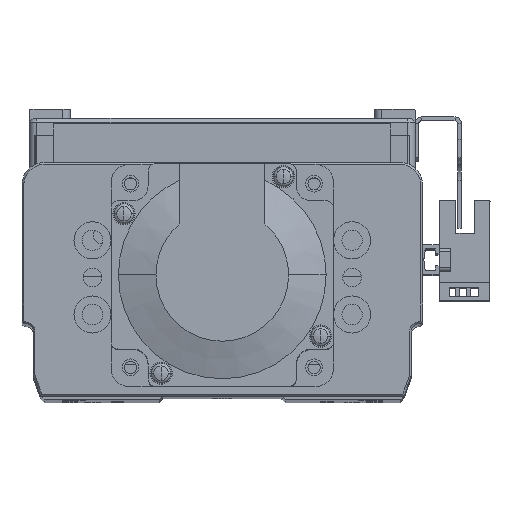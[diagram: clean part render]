
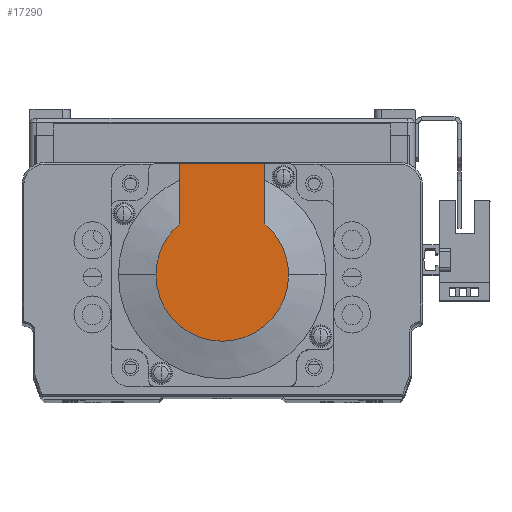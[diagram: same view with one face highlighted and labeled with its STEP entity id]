
A CAD part, top view. The second image highlights one B-rep face of the part: STEP entity #17290.
In plain terms, the highlighted planar face has unit normal (0, 0, 1) as drawn and (-1, 0, 0) by its records, which use the part's own axes.
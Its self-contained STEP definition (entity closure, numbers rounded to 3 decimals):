
#6930 = CARTESIAN_POINT ( 'NONE',  ( -99., 13.735, 11.45 ) ) ;
#6944 = CARTESIAN_POINT ( 'NONE',  ( -99., 0., 17.881 ) ) ;
#6952 = CARTESIAN_POINT ( 'NONE',  ( -99., 0., -17.881 ) ) ;
#7103 = CARTESIAN_POINT ( 'NONE',  ( -99., 13.735, -11.45 ) ) ;
#7141 = CARTESIAN_POINT ( 'NONE',  ( -99., 30., -11.45 ) ) ;
#7151 = CARTESIAN_POINT ( 'NONE',  ( -99., 30., 11.45 ) ) ;
#8076 = ORIENTED_EDGE ( 'NONE', *, *, #38153, .F. ) ;
#8084 = ORIENTED_EDGE ( 'NONE', *, *, #38079, .T. ) ;
#8089 = ORIENTED_EDGE ( 'NONE', *, *, #38134, .F. ) ;
#8117 = ORIENTED_EDGE ( 'NONE', *, *, #38121, .T. ) ;
#8119 = ORIENTED_EDGE ( 'NONE', *, *, #19098, .T. ) ;
#8134 = ORIENTED_EDGE ( 'NONE', *, *, #19062, .T. ) ;
#16986 = FACE_OUTER_BOUND ( 'NONE', #21888, .T. ) ;
#17290 = ADVANCED_FACE ( 'NONE', ( #16986 ), #29599, .T. ) ;
#19062 = EDGE_CURVE ( 'NONE', #40973, #40935, #45445, .T. ) ;
#19098 = EDGE_CURVE ( 'NONE', #40965, #40973, #45501, .T. ) ;
#21888 = EDGE_LOOP ( 'NONE', ( #8117, #8084, #8119, #8134, #8089, #8076 ) ) ;
#22935 = CIRCLE ( 'NONE', #43164, 17.881 ) ;
#23013 = LINE ( 'NONE', #27731, #23106 ) ;
#23032 = LINE ( 'NONE', #27778, #23075 ) ;
#23075 = VECTOR ( 'NONE', #27785, 1000. ) ;
#23106 = VECTOR ( 'NONE', #27741, 1000. ) ;
#23276 = LINE ( 'NONE', #27765, #23351 ) ;
#23351 = VECTOR ( 'NONE', #27796, 1000. ) ;
#27593 = CARTESIAN_POINT ( 'NONE',  ( -99., 0., 0. ) ) ;
#27607 = DIRECTION ( 'NONE',  ( 0., 0., -1. ) ) ;
#27610 = DIRECTION ( 'NONE',  ( -1., 0., 0. ) ) ;
#27731 = CARTESIAN_POINT ( 'NONE',  ( -99., -8.941, -11.45 ) ) ;
#27741 = DIRECTION ( 'NONE',  ( 0., -1., 0. ) ) ;
#27765 = CARTESIAN_POINT ( 'NONE',  ( -99., 30., 25. ) ) ;
#27778 = CARTESIAN_POINT ( 'NONE',  ( -99., 0., 11.45 ) ) ;
#27785 = DIRECTION ( 'NONE',  ( 0., -1., 0. ) ) ;
#27796 = DIRECTION ( 'NONE',  ( 0., 0., 1. ) ) ;
#29564 = DIRECTION ( 'NONE',  ( 0., 0., 1. ) ) ;
#29569 = DIRECTION ( 'NONE',  ( -1., 0., 0. ) ) ;
#29579 = CARTESIAN_POINT ( 'NONE',  ( -99., -8.941, 0. ) ) ;
#29599 = PLANE ( 'NONE',  #34911 ) ;
#34911 = AXIS2_PLACEMENT_3D ( 'NONE', #29579, #29569, #29564 ) ;
#38079 = EDGE_CURVE ( 'NONE', #41113, #40965, #22935, .T. ) ;
#38121 = EDGE_CURVE ( 'NONE', #41180, #41113, #23013, .T. ) ;
#38134 = EDGE_CURVE ( 'NONE', #41170, #40935, #23032, .T. ) ;
#38153 = EDGE_CURVE ( 'NONE', #41180, #41170, #23276, .T. ) ;
#40935 = VERTEX_POINT ( 'NONE', #6930 ) ;
#40965 = VERTEX_POINT ( 'NONE', #6952 ) ;
#40973 = VERTEX_POINT ( 'NONE', #6944 ) ;
#41113 = VERTEX_POINT ( 'NONE', #7103 ) ;
#41170 = VERTEX_POINT ( 'NONE', #7151 ) ;
#41180 = VERTEX_POINT ( 'NONE', #7141 ) ;
#42379 = AXIS2_PLACEMENT_3D ( 'NONE', #45069, #45057, #45070 ) ;
#42561 = AXIS2_PLACEMENT_3D ( 'NONE', #45159, #45129, #45160 ) ;
#43164 = AXIS2_PLACEMENT_3D ( 'NONE', #27593, #27610, #27607 ) ;
#45057 = DIRECTION ( 'NONE',  ( -1., 0., 0. ) ) ;
#45069 = CARTESIAN_POINT ( 'NONE',  ( -99., 0., 0. ) ) ;
#45070 = DIRECTION ( 'NONE',  ( 0., 0., -1. ) ) ;
#45129 = DIRECTION ( 'NONE',  ( -1., 0., 0. ) ) ;
#45159 = CARTESIAN_POINT ( 'NONE',  ( -99., 0., 0. ) ) ;
#45160 = DIRECTION ( 'NONE',  ( 0., 0., -1. ) ) ;
#45445 = CIRCLE ( 'NONE', #42379, 17.881 ) ;
#45501 = CIRCLE ( 'NONE', #42561, 17.881 ) ;
